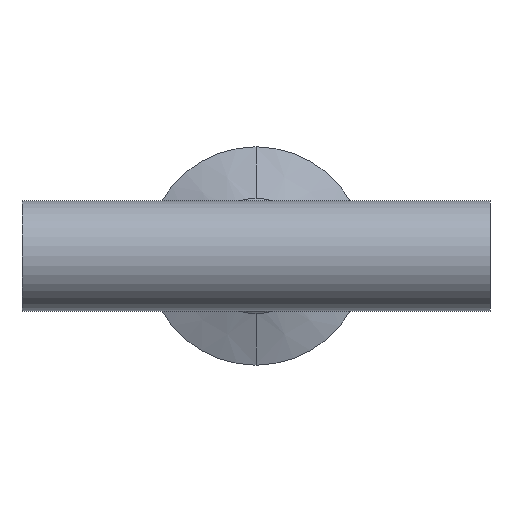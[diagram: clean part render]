
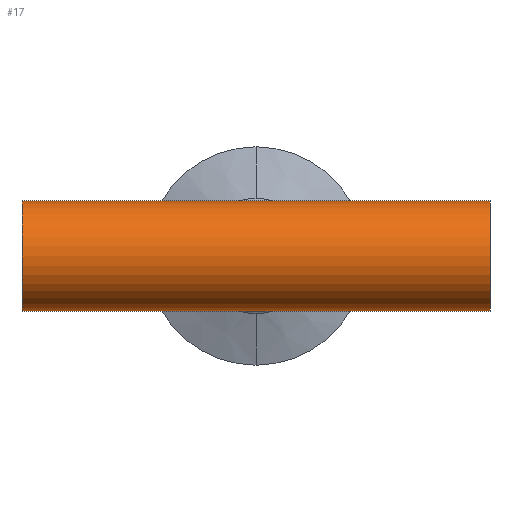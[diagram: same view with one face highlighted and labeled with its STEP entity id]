
A CAD part, front view. The second image highlights one B-rep face of the part: STEP entity #17.
In plain terms, the highlighted cylindrical face has radius 12.7 mm (diameter 25.4 mm), a partial arc.
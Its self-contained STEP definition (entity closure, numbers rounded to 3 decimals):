
#17 = ADVANCED_FACE ( 'NONE', ( #1216 ), #605, .T. ) ;
#38 = AXIS2_PLACEMENT_3D ( 'NONE', #582, #750, #771 ) ;
#39 = CARTESIAN_POINT ( 'NONE',  ( 54., 0., 0. ) ) ;
#187 = VECTOR ( 'NONE', #449, 1000. ) ;
#201 = CIRCLE ( 'NONE', #256, 12.7 ) ;
#256 = AXIS2_PLACEMENT_3D ( 'NONE', #1586, #447, #1580 ) ;
#279 = EDGE_CURVE ( 'NONE', #1403, #912, #1658, .T. ) ;
#375 = CARTESIAN_POINT ( 'NONE',  ( -54., 0., -12.7 ) ) ;
#407 = VERTEX_POINT ( 'NONE', #709 ) ;
#447 = DIRECTION ( 'NONE',  ( 1., 0., 0. ) ) ;
#449 = DIRECTION ( 'NONE',  ( 1., 0., 0. ) ) ;
#495 = ORIENTED_EDGE ( 'NONE', *, *, #1694, .T. ) ;
#536 = DIRECTION ( 'NONE',  ( 1., 0., 0. ) ) ;
#537 = ORIENTED_EDGE ( 'NONE', *, *, #1078, .T. ) ;
#556 = ORIENTED_EDGE ( 'NONE', *, *, #1392, .T. ) ;
#582 = CARTESIAN_POINT ( 'NONE',  ( -54., 0., 0. ) ) ;
#605 = CYLINDRICAL_SURFACE ( 'NONE', #38, 12.7 ) ;
#615 = LINE ( 'NONE', #1600, #1650 ) ;
#625 = VECTOR ( 'NONE', #1683, 1000. ) ;
#659 = CARTESIAN_POINT ( 'NONE',  ( 54., 0., -12.7 ) ) ;
#676 = EDGE_CURVE ( 'NONE', #1270, #407, #680, .T. ) ;
#680 = LINE ( 'NONE', #1080, #1382 ) ;
#705 = DIRECTION ( 'NONE',  ( -1., 0., 0. ) ) ;
#709 = CARTESIAN_POINT ( 'NONE',  ( 54., 0., 12.7 ) ) ;
#750 = DIRECTION ( 'NONE',  ( 1., 0., 0. ) ) ;
#771 = DIRECTION ( 'NONE',  ( 0., 0., -1. ) ) ;
#842 = LINE ( 'NONE', #1657, #187 ) ;
#882 = ORIENTED_EDGE ( 'NONE', *, *, #279, .T. ) ;
#912 = VERTEX_POINT ( 'NONE', #659 ) ;
#954 = AXIS2_PLACEMENT_3D ( 'NONE', #39, #705, #1651 ) ;
#1000 = EDGE_CURVE ( 'NONE', #1084, #1270, #615, .T. ) ;
#1078 = EDGE_CURVE ( 'NONE', #1601, #1403, #842, .T. ) ;
#1080 = CARTESIAN_POINT ( 'NONE',  ( -54., 0., 12.7 ) ) ;
#1084 = VERTEX_POINT ( 'NONE', #1549 ) ;
#1216 = FACE_OUTER_BOUND ( 'NONE', #1660, .T. ) ;
#1270 = VERTEX_POINT ( 'NONE', #1510 ) ;
#1273 = ORIENTED_EDGE ( 'NONE', *, *, #1000, .F. ) ;
#1309 = DIRECTION ( 'NONE',  ( 1., 0., 0. ) ) ;
#1382 = VECTOR ( 'NONE', #536, 1000. ) ;
#1392 = EDGE_CURVE ( 'NONE', #1084, #1601, #201, .T. ) ;
#1403 = VERTEX_POINT ( 'NONE', #1530 ) ;
#1510 = CARTESIAN_POINT ( 'NONE',  ( 0., 0., 12.7 ) ) ;
#1530 = CARTESIAN_POINT ( 'NONE',  ( 0., 0., -12.7 ) ) ;
#1536 = CIRCLE ( 'NONE', #954, 12.7 ) ;
#1549 = CARTESIAN_POINT ( 'NONE',  ( -54., 0., 12.7 ) ) ;
#1579 = ORIENTED_EDGE ( 'NONE', *, *, #676, .F. ) ;
#1580 = DIRECTION ( 'NONE',  ( 0., 0., -1. ) ) ;
#1586 = CARTESIAN_POINT ( 'NONE',  ( -54., 0., 0. ) ) ;
#1600 = CARTESIAN_POINT ( 'NONE',  ( -54., 0., 12.7 ) ) ;
#1601 = VERTEX_POINT ( 'NONE', #375 ) ;
#1650 = VECTOR ( 'NONE', #1309, 1000. ) ;
#1651 = DIRECTION ( 'NONE',  ( 0., 0., -1. ) ) ;
#1657 = CARTESIAN_POINT ( 'NONE',  ( -54., 0., -12.7 ) ) ;
#1658 = LINE ( 'NONE', #1703, #625 ) ;
#1660 = EDGE_LOOP ( 'NONE', ( #1273, #556, #537, #882, #495, #1579 ) ) ;
#1683 = DIRECTION ( 'NONE',  ( 1., 0., 0. ) ) ;
#1694 = EDGE_CURVE ( 'NONE', #912, #407, #1536, .T. ) ;
#1703 = CARTESIAN_POINT ( 'NONE',  ( -54., 0., -12.7 ) ) ;
